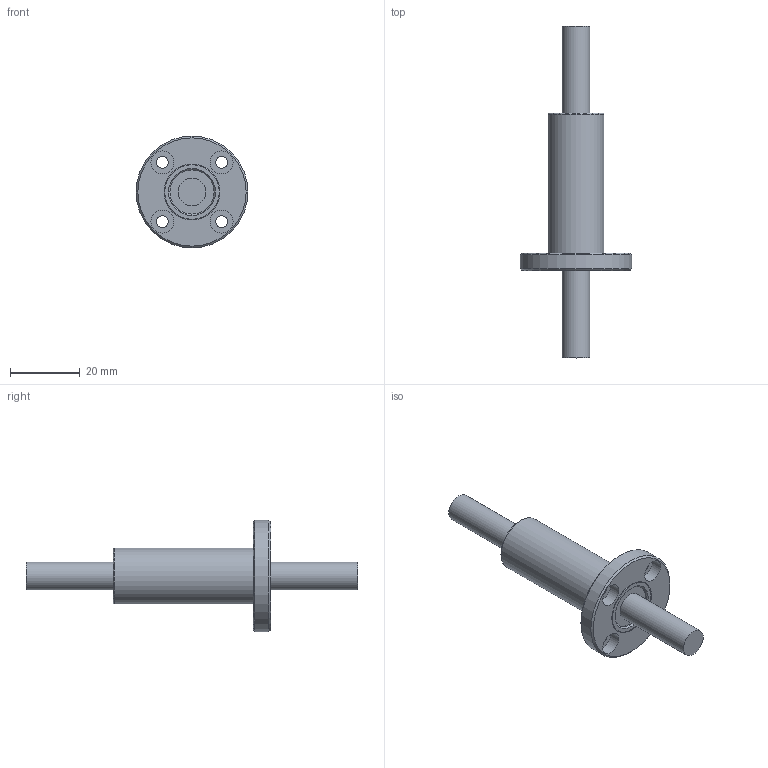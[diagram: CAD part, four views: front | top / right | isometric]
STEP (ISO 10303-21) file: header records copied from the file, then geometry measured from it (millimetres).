
FILE_DESCRIPTION((''),'2;1');
FILE_NAME('D:\STEP\EUROPE\BLANK\LMEF L\LMEF8L.stp','2013-02-05T17:58:05',('user2'),(''),'Autodesk Inventor 2012','Autodesk Inventor 2012','');
FILE_SCHEMA(('AUTOMOTIVE_DESIGN { 1 0 10303 214 1 1 1 1 }'));
Length unit declared in the file: millimetre
Products named in the file (1): LMEF8L
Bounding box: 32 x 95 x 32 mm (x, y, z)
Volume: 13940.8 mm3; surface area: 5672.3 mm2
Topology: 1 solids, 1 shells, 33 faces, 59 edges, 38 vertices
Faces by surface type: cylinder 15, plane 12, cone 4, torus 2
Full cylindrical faces by diameter (mm): 3.4 x4, 6.5 x4, 8 x2, 12.6 x2, 16 x2, 32 x1
Entity records: 736 total; most frequent: DIRECTION 140, CARTESIAN_POINT 106, ORIENTED_EDGE 72, EDGE_LOOP 72, AXIS2_PLACEMENT_3D 70, FACE_BOUND 39, VERTEX_POINT 36, CIRCLE 36
